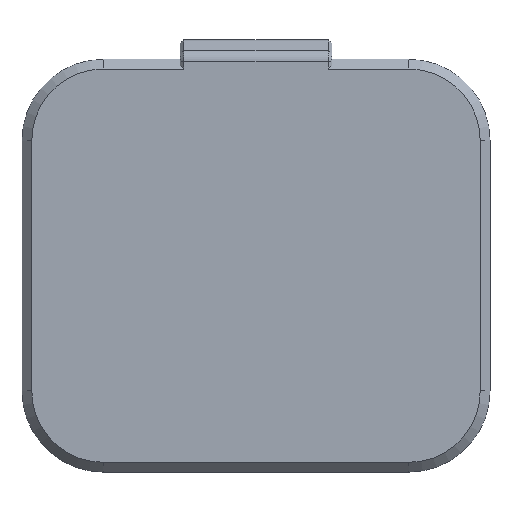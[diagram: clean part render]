
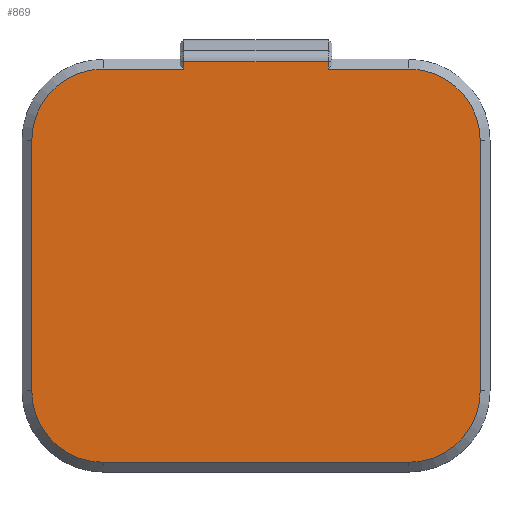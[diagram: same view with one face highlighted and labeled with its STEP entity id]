
A CAD part, top view. The second image highlights one B-rep face of the part: STEP entity #869.
In plain terms, the highlighted planar face has unit normal (0, 0, 1).
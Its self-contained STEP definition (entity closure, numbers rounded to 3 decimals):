
#744=CARTESIAN_POINT('',(-22.3,62.794,32.5));
#745=VERTEX_POINT('',#744);
#753=CARTESIAN_POINT('',(22.3,62.794,32.5));
#754=VERTEX_POINT('',#753);
#755=CARTESIAN_POINT('',(22.3,62.794,32.5));
#756=DIRECTION('',(-1.,-0.,0.));
#757=VECTOR('',#756,44.6);
#758=LINE('',#755,#757);
#759=EDGE_CURVE('',#754,#745,#758,.T.);
#771=CARTESIAN_POINT('',(0.,-0.,32.5));
#772=DIRECTION('',(0.,-0.,-1.));
#773=DIRECTION('',(1.,0.,0.));
#774=AXIS2_PLACEMENT_3D('',#771,#772,#773);
#775=PLANE('',#774);
#776=ORIENTED_EDGE('',*,*,#759,.T.);
#777=CARTESIAN_POINT('',(-22.3,60.5,32.5));
#778=VERTEX_POINT('',#777);
#779=CARTESIAN_POINT('',(-22.3,62.794,32.5));
#780=DIRECTION('',(0.,-1.,0.));
#781=VECTOR('',#780,2.294);
#782=LINE('',#779,#781);
#783=EDGE_CURVE('',#745,#778,#782,.T.);
#784=ORIENTED_EDGE('',*,*,#783,.T.);
#785=CARTESIAN_POINT('',(-47.,60.5,32.5));
#786=VERTEX_POINT('',#785);
#787=CARTESIAN_POINT('',(-22.3,60.5,32.5));
#788=DIRECTION('',(-1.,0.,0.));
#789=VECTOR('',#788,24.7);
#790=LINE('',#787,#789);
#791=EDGE_CURVE('',#778,#786,#790,.T.);
#792=ORIENTED_EDGE('',*,*,#791,.T.);
#793=CARTESIAN_POINT('',(-69.,38.5,32.5));
#794=VERTEX_POINT('',#793);
#795=CARTESIAN_POINT('',(-47.,38.5,32.5));
#796=DIRECTION('',(0.,0.,1.));
#797=DIRECTION('',(-1.,0.,0.));
#798=AXIS2_PLACEMENT_3D('',#795,#796,#797);
#799=CIRCLE('',#798,22.);
#800=EDGE_CURVE('',#786,#794,#799,.T.);
#801=ORIENTED_EDGE('',*,*,#800,.T.);
#802=CARTESIAN_POINT('',(-69.,-38.5,32.5));
#803=VERTEX_POINT('',#802);
#804=CARTESIAN_POINT('',(-69.,38.5,32.5));
#805=DIRECTION('',(0.,-1.,0.));
#806=VECTOR('',#805,77.);
#807=LINE('',#804,#806);
#808=EDGE_CURVE('',#794,#803,#807,.T.);
#809=ORIENTED_EDGE('',*,*,#808,.T.);
#810=CARTESIAN_POINT('',(-47.,-60.5,32.5));
#811=VERTEX_POINT('',#810);
#812=CARTESIAN_POINT('',(-47.,-38.5,32.5));
#813=DIRECTION('',(0.,0.,1.));
#814=DIRECTION('',(-1.,0.,0.));
#815=AXIS2_PLACEMENT_3D('',#812,#813,#814);
#816=CIRCLE('',#815,22.);
#817=EDGE_CURVE('',#803,#811,#816,.T.);
#818=ORIENTED_EDGE('',*,*,#817,.T.);
#819=CARTESIAN_POINT('',(47.,-60.5,32.5));
#820=VERTEX_POINT('',#819);
#821=CARTESIAN_POINT('',(-47.,-60.5,32.5));
#822=DIRECTION('',(1.,0.,-0.));
#823=VECTOR('',#822,94.);
#824=LINE('',#821,#823);
#825=EDGE_CURVE('',#811,#820,#824,.T.);
#826=ORIENTED_EDGE('',*,*,#825,.T.);
#827=CARTESIAN_POINT('',(69.,-38.5,32.5));
#828=VERTEX_POINT('',#827);
#829=CARTESIAN_POINT('',(47.,-38.5,32.5));
#830=DIRECTION('',(0.,0.,1.));
#831=DIRECTION('',(-1.,0.,0.));
#832=AXIS2_PLACEMENT_3D('',#829,#830,#831);
#833=CIRCLE('',#832,22.);
#834=EDGE_CURVE('',#820,#828,#833,.T.);
#835=ORIENTED_EDGE('',*,*,#834,.T.);
#836=CARTESIAN_POINT('',(69.,38.5,32.5));
#837=VERTEX_POINT('',#836);
#838=CARTESIAN_POINT('',(69.,-38.5,32.5));
#839=DIRECTION('',(0.,1.,-0.));
#840=VECTOR('',#839,77.);
#841=LINE('',#838,#840);
#842=EDGE_CURVE('',#828,#837,#841,.T.);
#843=ORIENTED_EDGE('',*,*,#842,.T.);
#844=CARTESIAN_POINT('',(47.,60.5,32.5));
#845=VERTEX_POINT('',#844);
#846=CARTESIAN_POINT('',(47.,38.5,32.5));
#847=DIRECTION('',(0.,0.,1.));
#848=DIRECTION('',(-1.,0.,0.));
#849=AXIS2_PLACEMENT_3D('',#846,#847,#848);
#850=CIRCLE('',#849,22.);
#851=EDGE_CURVE('',#837,#845,#850,.T.);
#852=ORIENTED_EDGE('',*,*,#851,.T.);
#853=CARTESIAN_POINT('',(22.3,60.5,32.5));
#854=VERTEX_POINT('',#853);
#855=CARTESIAN_POINT('',(47.,60.5,32.5));
#856=DIRECTION('',(-1.,0.,0.));
#857=VECTOR('',#856,24.7);
#858=LINE('',#855,#857);
#859=EDGE_CURVE('',#845,#854,#858,.T.);
#860=ORIENTED_EDGE('',*,*,#859,.T.);
#861=CARTESIAN_POINT('',(22.3,60.5,32.5));
#862=DIRECTION('',(0.,1.,-0.));
#863=VECTOR('',#862,2.294);
#864=LINE('',#861,#863);
#865=EDGE_CURVE('',#854,#754,#864,.T.);
#866=ORIENTED_EDGE('',*,*,#865,.T.);
#867=EDGE_LOOP('',(#776,#784,#792,#801,#809,#818,#826,#835,#843,#852,#860,#866));
#868=FACE_BOUND('',#867,.T.);
#869=ADVANCED_FACE('',(#868),#775,.F.);
